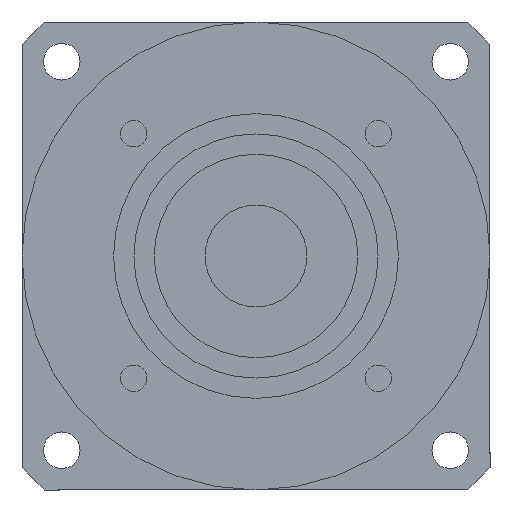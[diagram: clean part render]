
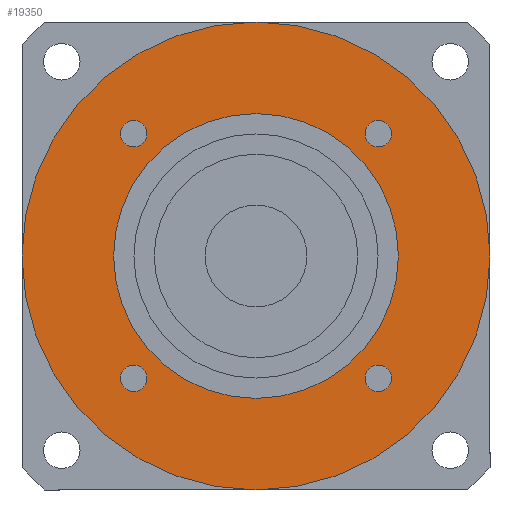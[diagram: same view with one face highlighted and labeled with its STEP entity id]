
A CAD part, left-side view. The second image highlights one B-rep face of the part: STEP entity #19350.
In plain terms, the highlighted planar face has unit normal (-1, 0, 0) as drawn and (0, 0, -1) by its records, which use the part's own axes.
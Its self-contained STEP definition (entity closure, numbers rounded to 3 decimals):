
#18020=CARTESIAN_POINT('',(57.5,0.,-120.));
#18030=VERTEX_POINT('',#18020);
#18060=CARTESIAN_POINT('',(0.,0.,
-120.));
#18070=DIRECTION('',(0.,0.,1.));
#18080=DIRECTION('',(0.,-1.,0.));
#18090=AXIS2_PLACEMENT_3D('',#18060,#18070,#18080);
#18100=CIRCLE('',#18090,57.5);
#18110=CARTESIAN_POINT('',(0.,-57.5,-120.));
#18120=VERTEX_POINT('',#18110);
#18130=EDGE_CURVE('',#18120,#18030,#18100,.T.);
#18150=CARTESIAN_POINT('',(-57.5,0.,-120.));
#18160=VERTEX_POINT('',#18150);
#18170=EDGE_CURVE('',#18160,#18120,#18100,.T.);
#18290=CARTESIAN_POINT('',(0.,0.,
-120.));
#18300=DIRECTION('',(0.,0.,1.));
#18310=DIRECTION('',(-1.,0.,0.));
#18320=AXIS2_PLACEMENT_3D('',#18290,#18300,#18310);
#18330=PLANE('',#18320);
#18340=CARTESIAN_POINT('',(30.052,-30.052,-120.));
#18350=DIRECTION('',(0.,0.,-1.));
#18360=DIRECTION('',(1.,0.,0.));
#18370=AXIS2_PLACEMENT_3D('',#18340,#18350,#18360);
#18380=CIRCLE('',#18370,3.25);
#18390=CARTESIAN_POINT('',(33.302,-30.052,-120.));
#18400=VERTEX_POINT('',#18390);
#18410=CARTESIAN_POINT('',(30.052,-33.302,-120.));
#18420=VERTEX_POINT('',#18410);
#18430=EDGE_CURVE('',#18400,#18420,#18380,.T.);
#18440=ORIENTED_EDGE('',*,*,#18430,.F.);
#18450=CARTESIAN_POINT('',(30.052,-26.802,-120.));
#18460=VERTEX_POINT('',#18450);
#18470=EDGE_CURVE('',#18420,#18460,#18380,.T.);
#18480=ORIENTED_EDGE('',*,*,#18470,.F.);
#18490=EDGE_CURVE('',#18460,#18400,#18380,.T.);
#18500=ORIENTED_EDGE('',*,*,#18490,.F.);
#18510=EDGE_LOOP('',(#18500,#18480,#18440));
#18520=FACE_BOUND('',#18510,.T.);
#18530=CARTESIAN_POINT('',(30.052,30.052,-120.));
#18540=DIRECTION('',(0.,0.,-1.));
#18550=DIRECTION('',(0.,1.,0.));
#18560=AXIS2_PLACEMENT_3D('',#18530,#18540,#18550);
#18570=CIRCLE('',#18560,3.25);
#18580=CARTESIAN_POINT('',(30.052,33.302,-120.));
#18590=VERTEX_POINT('',#18580);
#18600=CARTESIAN_POINT('',(33.302,30.052,-120.));
#18610=VERTEX_POINT('',#18600);
#18620=EDGE_CURVE('',#18590,#18610,#18570,.T.);
#18630=ORIENTED_EDGE('',*,*,#18620,.F.);
#18640=CARTESIAN_POINT('',(26.802,30.052,-120.));
#18650=VERTEX_POINT('',#18640);
#18660=EDGE_CURVE('',#18610,#18650,#18570,.T.);
#18670=ORIENTED_EDGE('',*,*,#18660,.F.);
#18680=EDGE_CURVE('',#18650,#18590,#18570,.T.);
#18690=ORIENTED_EDGE('',*,*,#18680,.F.);
#18700=EDGE_LOOP('',(#18690,#18670,#18630));
#18710=FACE_BOUND('',#18700,.T.);
#18720=CARTESIAN_POINT('',(-30.052,30.052,-120.));
#18730=DIRECTION('',(0.,0.,-1.));
#18740=DIRECTION('',(-1.,0.,0.));
#18750=AXIS2_PLACEMENT_3D('',#18720,#18730,#18740);
#18760=CIRCLE('',#18750,3.25);
#18770=CARTESIAN_POINT('',(-33.302,30.052,-120.));
#18780=VERTEX_POINT('',#18770);
#18790=CARTESIAN_POINT('',(-30.052,33.302,-120.));
#18800=VERTEX_POINT('',#18790);
#18810=EDGE_CURVE('',#18780,#18800,#18760,.T.);
#18820=ORIENTED_EDGE('',*,*,#18810,.F.);
#18830=CARTESIAN_POINT('',(-30.052,26.802,-120.));
#18840=VERTEX_POINT('',#18830);
#18850=EDGE_CURVE('',#18800,#18840,#18760,.T.);
#18860=ORIENTED_EDGE('',*,*,#18850,.F.);
#18870=EDGE_CURVE('',#18840,#18780,#18760,.T.);
#18880=ORIENTED_EDGE('',*,*,#18870,.F.);
#18890=EDGE_LOOP('',(#18880,#18860,#18820));
#18900=FACE_BOUND('',#18890,.T.);
#18910=CARTESIAN_POINT('',(-30.052,-30.052,-120.));
#18920=DIRECTION('',(0.,0.,-1.));
#18930=DIRECTION('',(0.,-1.,0.));
#18940=AXIS2_PLACEMENT_3D('',#18910,#18920,#18930);
#18950=CIRCLE('',#18940,3.25);
#18960=CARTESIAN_POINT('',(-30.052,-33.302,-120.));
#18970=VERTEX_POINT('',#18960);
#18980=CARTESIAN_POINT('',(-33.302,-30.052,-120.));
#18990=VERTEX_POINT('',#18980);
#19000=EDGE_CURVE('',#18970,#18990,#18950,.T.);
#19010=ORIENTED_EDGE('',*,*,#19000,.F.);
#19020=CARTESIAN_POINT('',(-26.802,-30.052,-120.));
#19030=VERTEX_POINT('',#19020);
#19040=EDGE_CURVE('',#18990,#19030,#18950,.T.);
#19050=ORIENTED_EDGE('',*,*,#19040,.F.);
#19060=EDGE_CURVE('',#19030,#18970,#18950,.T.);
#19070=ORIENTED_EDGE('',*,*,#19060,.F.);
#19080=EDGE_LOOP('',(#19070,#19050,#19010));
#19090=FACE_BOUND('',#19080,.T.);
#19100=ORIENTED_EDGE('',*,*,#18130,.F.);
#19110=EDGE_CURVE('',#18030,#18160,#18100,.T.);
#19120=ORIENTED_EDGE('',*,*,#19110,.F.);
#19130=ORIENTED_EDGE('',*,*,#18170,.F.);
#19140=EDGE_LOOP('',(#19130,#19120,#19100));
#19150=FACE_OUTER_BOUND('',#19140,.T.);
#19160=CARTESIAN_POINT('',(0.,0.,
-120.));
#19170=DIRECTION('',(0.,0.,1.));
#19180=DIRECTION('',(0.,-1.,0.));
#19190=AXIS2_PLACEMENT_3D('',#19160,#19170,#19180);
#19200=CIRCLE('',#19190,35.);
#19210=CARTESIAN_POINT('',(35.,0.,-120.));
#19220=VERTEX_POINT('',#19210);
#19230=CARTESIAN_POINT('',(-35.,0.,-120.));
#19240=VERTEX_POINT('',#19230);
#19250=EDGE_CURVE('',#19220,#19240,#19200,.T.);
#19260=ORIENTED_EDGE('',*,*,#19250,.T.);
#19270=CARTESIAN_POINT('',(0.,-35.,-120.));
#19280=VERTEX_POINT('',#19270);
#19290=EDGE_CURVE('',#19280,#19220,#19200,.T.);
#19300=ORIENTED_EDGE('',*,*,#19290,.T.);
#19310=EDGE_CURVE('',#19240,#19280,#19200,.T.);
#19320=ORIENTED_EDGE('',*,*,#19310,.T.);
#19330=EDGE_LOOP('',(#19320,#19300,#19260));
#19340=FACE_BOUND('',#19330,.T.);
#19350=ADVANCED_FACE('',(#18520,#18710,#18900,#19090,#19150,#19340),
#18330,.F.);
